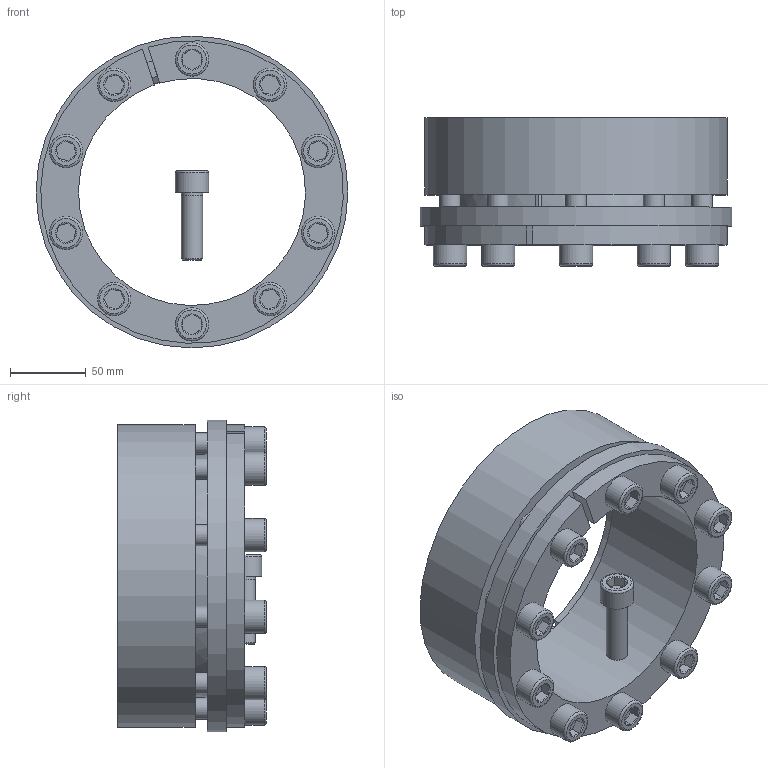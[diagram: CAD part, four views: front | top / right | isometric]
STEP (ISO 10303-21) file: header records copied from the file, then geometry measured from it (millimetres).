
FILE_DESCRIPTION( ( 'Unknown' ), '1' );
FILE_NAME( 'C:/Dokumente und Einstellungen/Sven/Desktop/homepage/cad - homepage/KBS71/KBS 71 - 150 x 200.stp', 'Unknown', ( 'Unknown' ), ( 'Unknown' ), 'XStep 1.0', 'Unknown', ' ' );
FILE_SCHEMA( ( 'automotive_design' ) );
Length unit declared in the file: millimetre
Products named in the file (3): Assem1; KBS 71 - 150 x 200; ISO EN DIN 4762 M14x45
Bounding box: 206 x 98 x 206 mm (x, y, z)
Volume: 2049848.7 mm3; surface area: 396166.1 mm2
Topology: 13 solids, 13 shells, 363 faces, 781 edges, 466 vertices
Faces by surface type: plane 164, cylinder 92, cone 85, torus 22
Full cylindrical faces by diameter (mm): 12 x11, 14 x62, 22 x11, 206 x2
Entity records: 2522 total; most frequent: CARTESIAN_POINT 401, DIRECTION 384, ORIENTED_EDGE 292, AXIS2_PLACEMENT_3D 167, EDGE_CURVE 146, EDGE_LOOP 136, VERTEX_POINT 104, FACE_OUTER_BOUND 96
